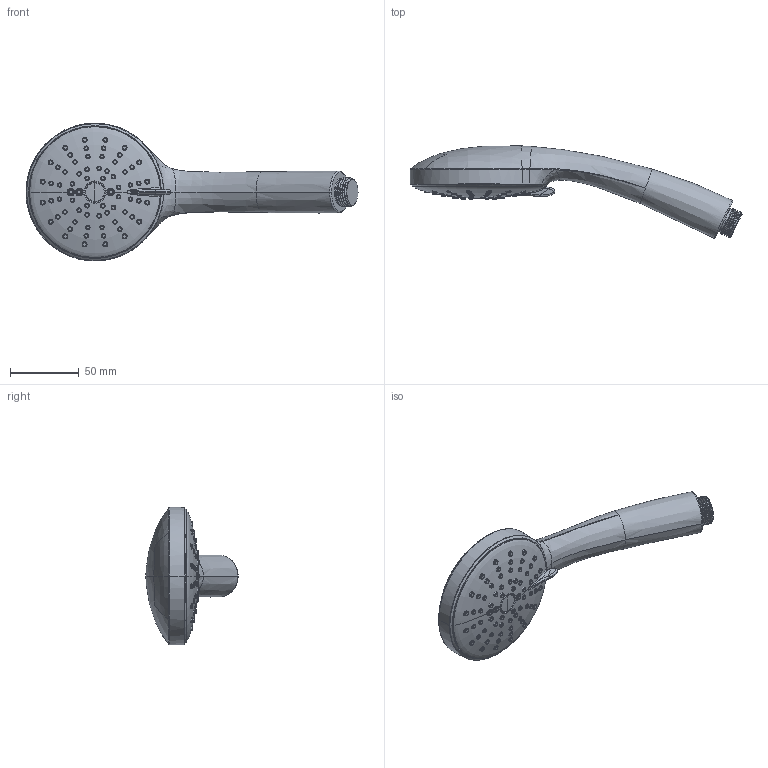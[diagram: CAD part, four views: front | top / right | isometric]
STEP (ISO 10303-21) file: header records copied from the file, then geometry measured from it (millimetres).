
FILE_DESCRIPTION((''),'2;1');
FILE_NAME('76673--_SUB01_SW0001','2026-10-06T15:53:33',('simi1'),(''),'CREO PARAMETRIC BY PTC INC, 2022244','CREO PARAMETRIC BY PTC INC, 2022244','');
FILE_SCHEMA(('CONFIG_CONTROL_DESIGN'));
Length unit declared in the file: millimetre
Products named in the file (1): 76673--_SUB01_SW0001
Bounding box: 241.56 x 67.07 x 100.28 mm (x, y, z)
Surface area: 36598.1 mm2 (no closed solid volume)
Topology: 0 solids, 72 shells, 462 faces, 1227 edges, 829 vertices
Faces by surface type: torus 151, cone 142, bspline 74, plane 72, cylinder 14, revolution 9
Entity records: 25473 total; most frequent: CARTESIAN_POINT 14401, DIRECTION 2372, ORIENTED_EDGE 2285, EDGE_CURVE 1225, AXIS2_PLACEMENT_3D 1100, VERTEX_POINT 829, CIRCLE 721, EDGE_LOOP 462
